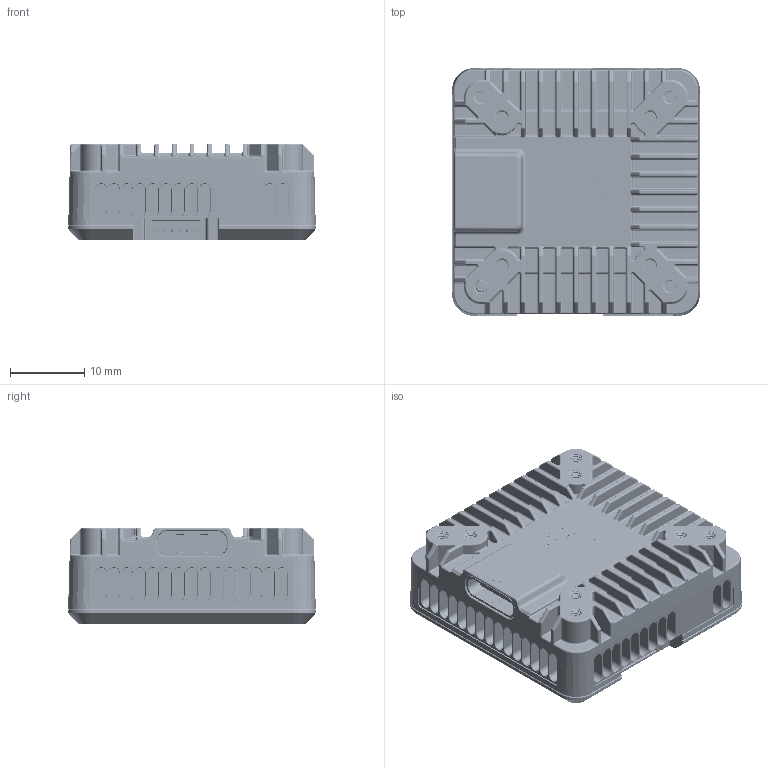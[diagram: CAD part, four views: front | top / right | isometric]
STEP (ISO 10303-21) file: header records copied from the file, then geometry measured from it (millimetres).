
FILE_DESCRIPTION(/* description */ ('','CAx-IF Rec.Pracs.---Representation and Presentation of Product Manufacturing Information (PMI)---4.0---2014-10-13'),/* implementation_level */ '2;1');
FILE_NAME(/* name */ 'DJI O4 AIR UNIT.step',/* time_stamp */ '2025-01-14T19:45:18-08:00',/* author */ (''),/* organization */ (''),/* preprocessor_version */ 'ST-DEVELOPER v20',/* originating_system */ 'Autodesk Translation Framework v13.20.0.188',/* authorisation */ '');
FILE_SCHEMA (('AP242_MANAGED_MODEL_BASED_3D_ENGINEERING_MIM_LF { 1 0 10303 442 1 1 4 }'));
Products named in the file (7): DJI O4 AIR UNIT; Bottom Casing; 91294A006_Black-Oxide Alloy Steel Hex Drive Flat Head Screw; SH1.0 6pin 90 v2; BM6B-SRSS-TB v1; Top Casing; USB C 
Assembly tree (6 placements, depth 3):
  DJI O4 AIR UNIT
    Bottom Casing
    91294A006_Black-Oxide Alloy Steel Hex Drive Flat Head Screw
    SH1.0 6pin 90 v2
      BM6B-SRSS-TB v1
    Top Casing
    USB C 
Bounding box: 33.42 x 33.42 x 13.01 mm (x, y, z)
Volume: 11422.1 mm3; surface area: 9571.2 mm2
Topology: 30 solids, 30 shells, 4409 faces, 10967 edges, 6634 vertices
Faces by surface type: cylinder 1675, plane 1414, bspline 801, sphere 260, torus 205, cone 54
Full cylindrical faces by diameter (mm): 1.48 x22, 1.5 x1, 1.623 x100, 2 x20, 2.074 x68, 4 x4, 4.4 x4
Entity records: 180142 total; most frequent: CARTESIAN_POINT 80249, ORIENTED_EDGE 21750, DIRECTION 19166, EDGE_CURVE 10875, AXIS2_PLACEMENT_3D 6846, VERTEX_POINT 6634, LINE 5474, VECTOR 5474
